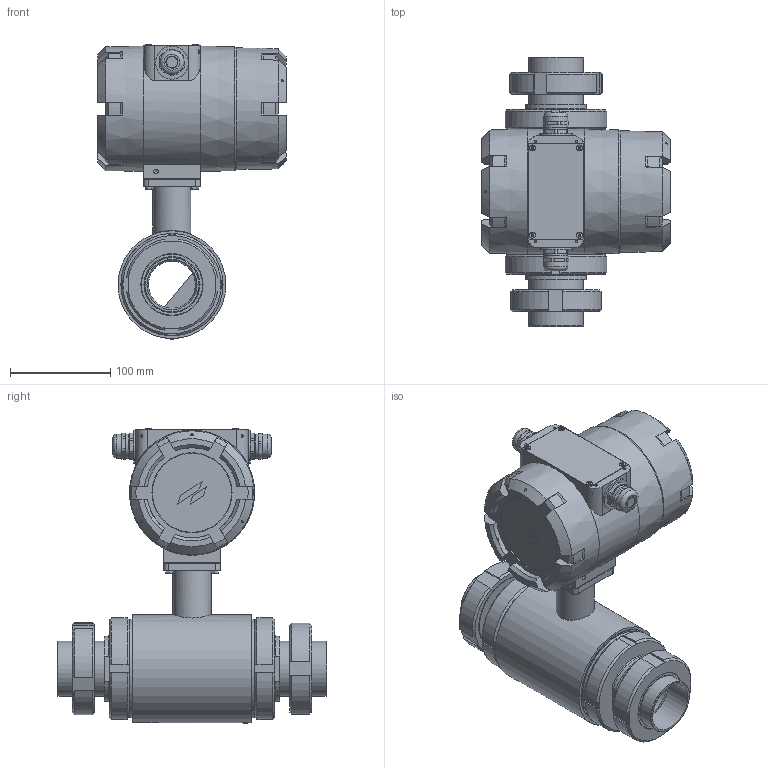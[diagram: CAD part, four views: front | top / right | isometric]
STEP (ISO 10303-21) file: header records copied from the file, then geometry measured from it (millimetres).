
FILE_DESCRIPTION(('STEP AP214'), '1');
FILE_NAME('ÂÇËÅÒ ÒÝÐ DN50 ïèùåâîé', '', ('UNSPECIFIED'), ('UNSPECIFIED'), 'ASCON STEP Converter 1.6', 'ASCON Math Kernel', '');
FILE_SCHEMA(('AUTOMOTIVE_DESIGN { 1 0 10303 214 3 1 1}'));
Length unit declared in the file: millimetre
Products named in the file (1): 婽挭.407212.002-05.01
Bounding box: 188 x 268.47 x 294.14 mm (x, y, z)
Volume: 1720307.6 mm3; surface area: 535831.8 mm2
Topology: 5 solids, 7 shells, 897 faces, 2231 edges, 1449 vertices
Faces by surface type: plane 436, cylinder 250, cone 154, torus 41, bspline 15, sphere 1
Full cylindrical faces by diameter (mm): 2 x10, 2.459 x4, 3.959 x10, 4 x9, 4.459 x1, 5 x4, 5.6 x1, 6 x12, 8 x2, 10 x4, 12 x2, 15 x2, 16 x3, 17.835 x1, 18.376 x1, 19 x2, 19.2 x2, 19.7 x2, 20 x2, 20.1 x2, 22 x2, 23 x1, 24 x4, 30 x3, 32.5 x1, 33 x2, 38 x2, 39 x1, 40.5 x1, 47 x1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
Entity records: 56688 total; most frequent: CARTESIAN_POINT 29215, DIRECTION 4045, ORIENTED_EDGE 3950, EDGE_CURVE 1975, AXIS2_PLACEMENT_3D 1633, VERTEX_POINT 1440, EDGE_LOOP 1331, FACE_BOUND 948
